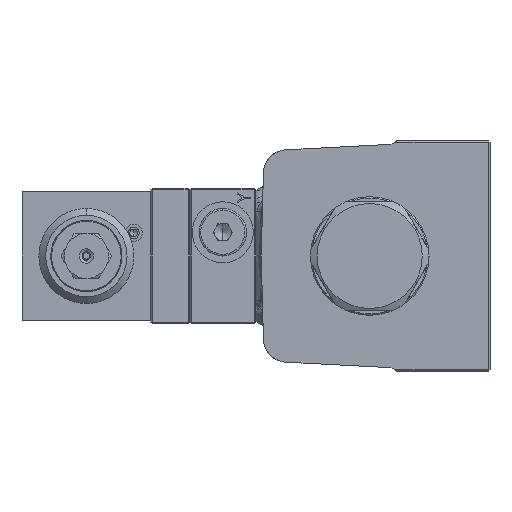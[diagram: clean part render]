
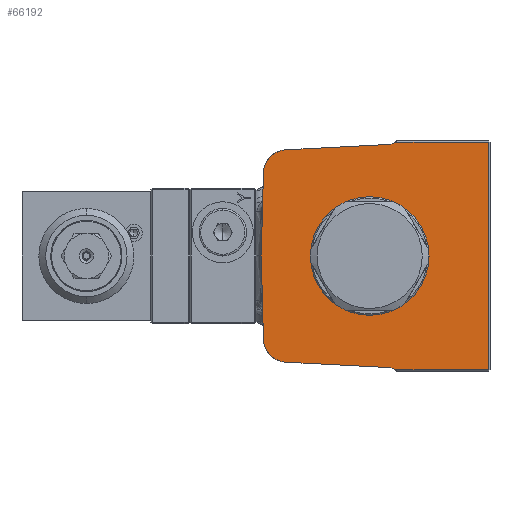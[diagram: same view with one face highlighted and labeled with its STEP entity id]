
A CAD part, left-side view. The second image highlights one B-rep face of the part: STEP entity #66192.
In plain terms, the highlighted planar face has unit normal (-1, 0, 0).
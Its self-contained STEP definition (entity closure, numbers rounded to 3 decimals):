
#1060 = CARTESIAN_POINT ( 'NONE',  ( -46.6, 31.978, -0.837 ) ) ;
#1307 = DIRECTION ( 'NONE',  ( 1., 0., 0. ) ) ;
#2082 = VERTEX_POINT ( 'NONE', #49768 ) ;
#2488 = EDGE_CURVE ( 'NONE', #11450, #37362, #71078, .T. ) ;
#3210 = ORIENTED_EDGE ( 'NONE', *, *, #15034, .T. ) ;
#3256 = FACE_OUTER_BOUND ( 'NONE', #8493, .T. ) ;
#4321 = LINE ( 'NONE', #37097, #63928 ) ;
#4618 = AXIS2_PLACEMENT_3D ( 'NONE', #33020, #1307, #77083 ) ;
#5418 = CARTESIAN_POINT ( 'NONE',  ( -46.6, 1.706, 32.544 ) ) ;
#5863 = LINE ( 'NONE', #1060, #48925 ) ;
#6484 = ORIENTED_EDGE ( 'NONE', *, *, #6563, .F. ) ;
#6563 = EDGE_CURVE ( 'NONE', #2082, #57754, #23942, .T. ) ;
#7187 = DIRECTION ( 'NONE',  ( 0., -0.999, -0.052 ) ) ;
#8493 = EDGE_LOOP ( 'NONE', ( #72547, #26727, #52743, #3210, #16764, #15753, #62083, #26693, #62095, #6484, #24984 ) ) ;
#10852 = CARTESIAN_POINT ( 'NONE',  ( -46.6, -35.5, 33.5 ) ) ;
#10970 = AXIS2_PLACEMENT_3D ( 'NONE', #63837, #20719, #45345 ) ;
#11268 = CARTESIAN_POINT ( 'NONE',  ( -46.6, 24.726, 31.337 ) ) ;
#11450 = VERTEX_POINT ( 'NONE', #59722 ) ;
#13966 = EDGE_CURVE ( 'NONE', #37362, #11450, #16282, .T. ) ;
#14557 = AXIS2_PLACEMENT_3D ( 'NONE', #60221, #66014, #28117 ) ;
#14718 = EDGE_CURVE ( 'NONE', #16754, #68977, #54670, .T. ) ;
#14834 = DIRECTION ( 'NONE',  ( 1., 0., 0. ) ) ;
#14934 = EDGE_CURVE ( 'NONE', #16754, #62962, #23268, .T. ) ;
#15034 = EDGE_CURVE ( 'NONE', #60307, #79824, #23191, .T. ) ;
#15753 = ORIENTED_EDGE ( 'NONE', *, *, #14934, .F. ) ;
#16282 = CIRCLE ( 'NONE', #79324, 16. ) ;
#16638 = CARTESIAN_POINT ( 'NONE',  ( -46.6, -35., -34. ) ) ;
#16754 = VERTEX_POINT ( 'NONE', #11268 ) ;
#16764 = ORIENTED_EDGE ( 'NONE', *, *, #55689, .T. ) ;
#17152 = DIRECTION ( 'NONE',  ( 0., -0.999, 0.052 ) ) ;
#17174 = CARTESIAN_POINT ( 'NONE',  ( -46.6, -35., -33.5 ) ) ;
#17304 = DIRECTION ( 'NONE',  ( 0., -0.026, 1. ) ) ;
#17913 = DIRECTION ( 'NONE',  ( 0., 1., 0. ) ) ;
#18961 = CARTESIAN_POINT ( 'NONE',  ( -46.6, 1.706, -32.544 ) ) ;
#19349 = EDGE_CURVE ( 'NONE', #57572, #68977, #67855, .T. ) ;
#20719 = DIRECTION ( 'NONE',  ( -1., 0., 0. ) ) ;
#23191 = LINE ( 'NONE', #10852, #52529 ) ;
#23268 = LINE ( 'NONE', #5418, #38026 ) ;
#23942 = CIRCLE ( 'NONE', #4618, 7. ) ;
#24285 = CARTESIAN_POINT ( 'NONE',  ( -46.6, 32., 0. ) ) ;
#24984 = ORIENTED_EDGE ( 'NONE', *, *, #36113, .T. ) ;
#25796 = VECTOR ( 'NONE', #7187, 1000. ) ;
#26445 = DIRECTION ( 'NONE',  ( 0., -0.026, -1. ) ) ;
#26693 = ORIENTED_EDGE ( 'NONE', *, *, #19349, .F. ) ;
#26727 = ORIENTED_EDGE ( 'NONE', *, *, #45036, .T. ) ;
#27009 = CIRCLE ( 'NONE', #31323, 3. ) ;
#27625 = CARTESIAN_POINT ( 'NONE',  ( -46.6, -5.693, 35.936 ) ) ;
#27936 = CARTESIAN_POINT ( 'NONE',  ( -46.6, -7.444, -33.5 ) ) ;
#28117 = DIRECTION ( 'NONE',  ( 0., 0., 1. ) ) ;
#28893 = VECTOR ( 'NONE', #60243, 1000. ) ;
#30732 = EDGE_CURVE ( 'NONE', #52274, #76278, #27009, .T. ) ;
#31323 = AXIS2_PLACEMENT_3D ( 'NONE', #31921, #56924, #45267 ) ;
#31921 = CARTESIAN_POINT ( 'NONE',  ( -46.6, -5.693, -35.936 ) ) ;
#33020 = CARTESIAN_POINT ( 'NONE',  ( -46.6, 24.36, -24.347 ) ) ;
#33829 = VERTEX_POINT ( 'NONE', #17174 ) ;
#34403 = CARTESIAN_POINT ( 'NONE',  ( -46.6, 0., 0. ) ) ;
#35420 = CARTESIAN_POINT ( 'NONE',  ( -46.6, 31.978, 0.837 ) ) ;
#36113 = EDGE_CURVE ( 'NONE', #2082, #52274, #44388, .T. ) ;
#36855 = CARTESIAN_POINT ( 'NONE',  ( -46.6, -7.444, 33.5 ) ) ;
#37097 = CARTESIAN_POINT ( 'NONE',  ( -46.6, -35.5, -33.5 ) ) ;
#37362 = VERTEX_POINT ( 'NONE', #59103 ) ;
#37695 = CARTESIAN_POINT ( 'NONE',  ( -46.6, -5.85, -32.94 ) ) ;
#38026 = VECTOR ( 'NONE', #17152, 1000. ) ;
#42531 = DIRECTION ( 'NONE',  ( 0., -1., 0. ) ) ;
#43622 = LINE ( 'NONE', #16638, #28893 ) ;
#44388 = LINE ( 'NONE', #18961, #25796 ) ;
#45036 = EDGE_CURVE ( 'NONE', #76278, #33829, #4321, .T. ) ;
#45267 = DIRECTION ( 'NONE',  ( 0., 0., 1. ) ) ;
#45345 = DIRECTION ( 'NONE',  ( 0., -1., 0. ) ) ;
#46245 = DIRECTION ( 'NONE',  ( 0., 0., 1. ) ) ;
#46957 = DIRECTION ( 'NONE',  ( 0., -1., 0. ) ) ;
#47392 = ORIENTED_EDGE ( 'NONE', *, *, #13966, .F. ) ;
#48925 = VECTOR ( 'NONE', #26445, 1000. ) ;
#49768 = CARTESIAN_POINT ( 'NONE',  ( -46.6, 24.726, -31.337 ) ) ;
#50622 = EDGE_LOOP ( 'NONE', ( #47392, #58746 ) ) ;
#51298 = VECTOR ( 'NONE', #17304, 1000. ) ;
#52274 = VERTEX_POINT ( 'NONE', #37695 ) ;
#52529 = VECTOR ( 'NONE', #17913, 1000. ) ;
#52743 = ORIENTED_EDGE ( 'NONE', *, *, #71711, .T. ) ;
#53243 = AXIS2_PLACEMENT_3D ( 'NONE', #27625, #14834, #46245 ) ;
#54278 = PLANE ( 'NONE',  #14557 ) ;
#54670 = CIRCLE ( 'NONE', #77295, 7. ) ;
#55689 = EDGE_CURVE ( 'NONE', #79824, #62962, #68580, .T. ) ;
#56924 = DIRECTION ( 'NONE',  ( 1., 0., 0. ) ) ;
#57572 = VERTEX_POINT ( 'NONE', #24285 ) ;
#57754 = VERTEX_POINT ( 'NONE', #62732 ) ;
#58296 = DIRECTION ( 'NONE',  ( -1., 0., 0. ) ) ;
#58746 = ORIENTED_EDGE ( 'NONE', *, *, #2488, .F. ) ;
#58770 = CARTESIAN_POINT ( 'NONE',  ( -46.6, -5.85, 32.94 ) ) ;
#59103 = CARTESIAN_POINT ( 'NONE',  ( -46.6, -16., 0. ) ) ;
#59722 = CARTESIAN_POINT ( 'NONE',  ( -46.6, 16., 0. ) ) ;
#60221 = CARTESIAN_POINT ( 'NONE',  ( -46.6, -35.5, -34. ) ) ;
#60243 = DIRECTION ( 'NONE',  ( 0., 0., 1. ) ) ;
#60307 = VERTEX_POINT ( 'NONE', #77198 ) ;
#62083 = ORIENTED_EDGE ( 'NONE', *, *, #14718, .T. ) ;
#62095 = ORIENTED_EDGE ( 'NONE', *, *, #67130, .T. ) ;
#62732 = CARTESIAN_POINT ( 'NONE',  ( -46.6, 31.358, -24.53 ) ) ;
#62962 = VERTEX_POINT ( 'NONE', #58770 ) ;
#63572 = DIRECTION ( 'NONE',  ( 0., 0., 1. ) ) ;
#63837 = CARTESIAN_POINT ( 'NONE',  ( -46.6, 0., 0. ) ) ;
#63928 = VECTOR ( 'NONE', #42531, 1000. ) ;
#64792 = FACE_BOUND ( 'NONE', #50622, .T. ) ;
#64797 = CARTESIAN_POINT ( 'NONE',  ( -46.6, 31.358, 24.53 ) ) ;
#66014 = DIRECTION ( 'NONE',  ( -1., 0., 0. ) ) ;
#66192 = ADVANCED_FACE ( 'NONE', ( #3256, #64792 ), #54278, .T. ) ;
#67130 = EDGE_CURVE ( 'NONE', #57572, #57754, #5863, .T. ) ;
#67855 = LINE ( 'NONE', #35420, #51298 ) ;
#68580 = CIRCLE ( 'NONE', #53243, 3. ) ;
#68977 = VERTEX_POINT ( 'NONE', #64797 ) ;
#70408 = CARTESIAN_POINT ( 'NONE',  ( -46.6, 24.36, 24.347 ) ) ;
#71078 = CIRCLE ( 'NONE', #10970, 16. ) ;
#71711 = EDGE_CURVE ( 'NONE', #33829, #60307, #43622, .T. ) ;
#72547 = ORIENTED_EDGE ( 'NONE', *, *, #30732, .T. ) ;
#75261 = DIRECTION ( 'NONE',  ( -1., 0., 0. ) ) ;
#76278 = VERTEX_POINT ( 'NONE', #27936 ) ;
#77083 = DIRECTION ( 'NONE',  ( 0., 0., 1. ) ) ;
#77198 = CARTESIAN_POINT ( 'NONE',  ( -46.6, -35., 33.5 ) ) ;
#77295 = AXIS2_PLACEMENT_3D ( 'NONE', #70408, #75261, #63572 ) ;
#79324 = AXIS2_PLACEMENT_3D ( 'NONE', #34403, #58296, #46957 ) ;
#79824 = VERTEX_POINT ( 'NONE', #36855 ) ;
